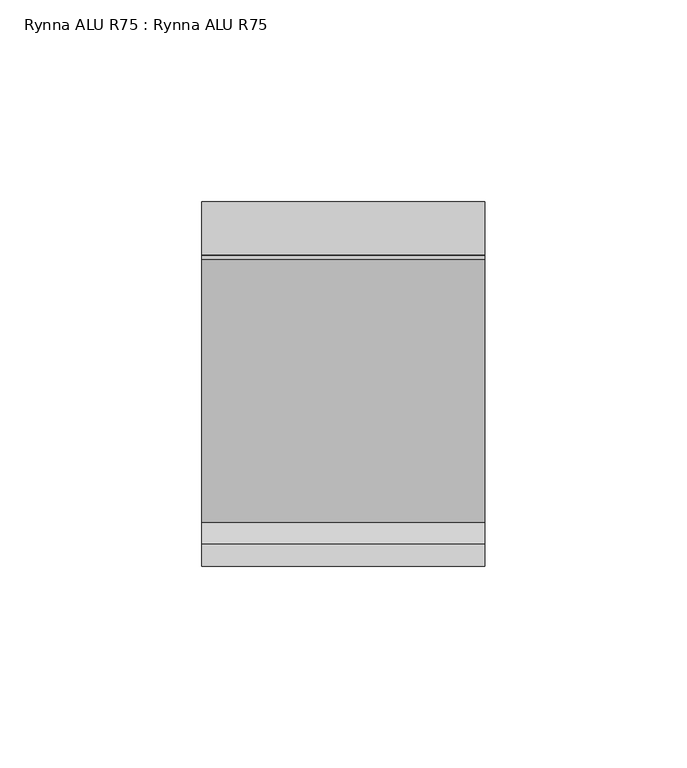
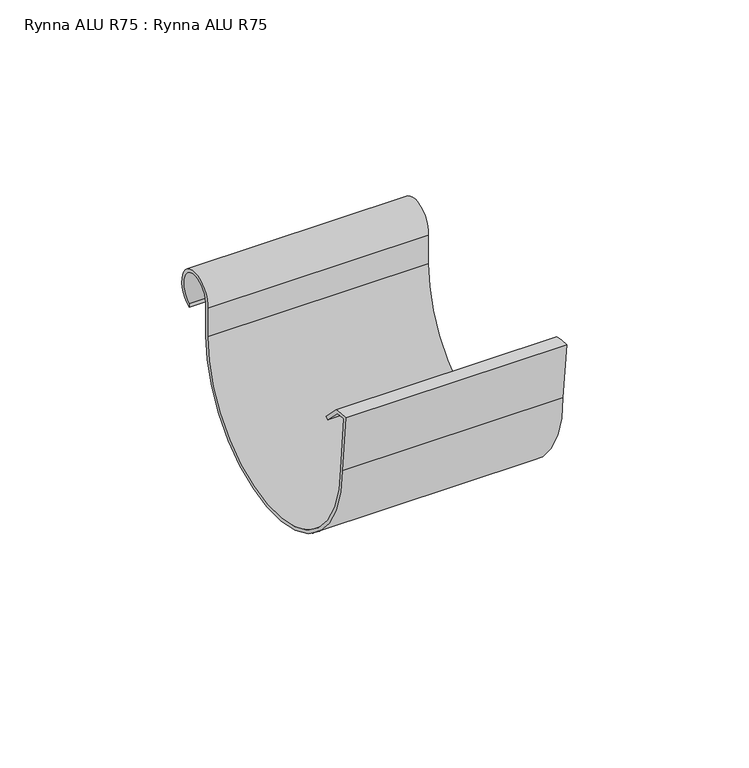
"""IFC4 building model written with IfcOpenShell, lengths in millimetres: proxy geometry, Rynna ALU R75 : Rynna ALU R75."""

from ifc_helpers import new_model, si_unit, point, frame, frame_2d, origin, place, context, project, spatial, polyline, circle_curve, trimmed, segment, composite_curve, outline, extrude, source, transform, mapped, element, save


def rynna_alu_r75_rynna_alu_r75_d5d98ae5(model_context):
    return source(origin(), model_context, "Body", "SweptSolid", [
        extrude(outline(composite_curve([segment(trimmed(circle_curve(frame_2d((39.5, -18.8928858)), 37.5), [point((77.0000001, -18.8928858))], [point((2.0, -18.8928858))], False, "CARTESIAN"), True, "CONTINUOUS"), segment(polyline([(2.0, -18.8928858), (0.0, 0.0)]), True, "CONTINUOUS"), segment(trimmed(circle_curve(frame_2d((0.8393369, -17.5562346)), 17.5762868), [point((0.0, 0.0))], [point((5.4142136, -0.585779))], False, "CARTESIAN"), True, "CONTINUOUS"), segment(polyline([(5.4142136, -0.585779), (10.7298468, -5.9014122), (10.02274, -6.608519), (4.8989693, -1.4847483)]), True, "CONTINUOUS"), segment(trimmed(circle_curve(frame_2d((0.8393369, -17.5562346)), 16.5762868), [point((4.8989693, -1.4847483))], [point((1.1093439, -0.9821469))], True, "CARTESIAN"), True, "CONTINUOUS"), segment(polyline([(1.1093439, -0.9821469), (3.0000084, -18.8754102)]), True, "CONTINUOUS"), segment(trimmed(circle_curve(frame_2d((39.5000101, -18.8754102)), 36.5000017), [point((3.0000084, -18.8754102))], [point((76.0000118, -18.8754102))], True, "CARTESIAN"), True, "CONTINUOUS"), segment(polyline([(76.0000118, -18.8754102), (76.0000118, -9.3500002)]), True, "CONTINUOUS"), segment(trimmed(circle_curve(frame_2d((83.0655965, -8.651839)), 7.0999941), [point((76.0000118, -9.3500002))], [point((86.1676128, -15.0383413))], False, "CARTESIAN"), True, "CONTINUOUS"), segment(polyline([(86.1676128, -15.0383413), (86.1676128, -13.9042145)]), True, "CONTINUOUS"), segment(trimmed(circle_curve(frame_2d((83.065591, -8.6518374)), 6.1000004), [point((86.1676128, -13.9042145))], [point((77.0000001, -9.298839))], True, "CARTESIAN"), True, "CONTINUOUS"), segment(polyline([(77.0000001, -9.298839), (77.0000001, -18.8928858)]), True, "CONTINUOUS")], self_intersect=False)), frame((-35.0, 0.0, 0.0), z_axis=(1.0, 0.0, 0.0), x_axis=(0.0, 1.0, 0.0)), (0.0, 0.0, 1.0), 70.0),
    ])


if __name__ == "__main__":
    model = new_model("IFC4")
    model_context = context("Model", 3, world=origin())
    ifc_project = project(units=[si_unit("LENGTHUNIT", "METRE", prefix="MILLI")], contexts=[model_context])
    site = spatial("IfcSite", under=ifc_project)
    building = spatial("IfcBuilding", under=site)
    placement = place(None, origin())
    rynna_alu_r75_rynna_alu_r75_shape = rynna_alu_r75_rynna_alu_r75_d5d98ae5(model_context)
    element("IfcBuildingElementProxy", 1, Name="Rynna ALU R75 : Rynna ALU R75", ObjectType="Rynna ALU R75 : Rynna ALU R75", at=placement, inside=building, context=model_context, shape_type="MappedRepresentation", body=[
        mapped(rynna_alu_r75_rynna_alu_r75_shape, transform((0.0, 0.0, 0.0), x_axis=(1.0, 0.0, 0.0), y_axis=(0.0, 1.0, 0.0), z_axis=(0.0, 0.0, 1.0))),
    ])
    save(model, "model.ifc")
